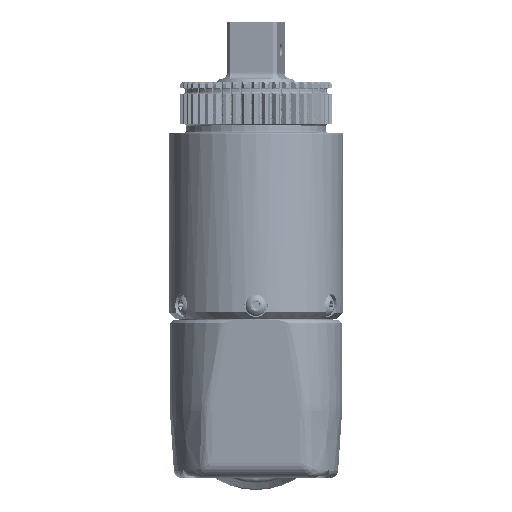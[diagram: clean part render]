
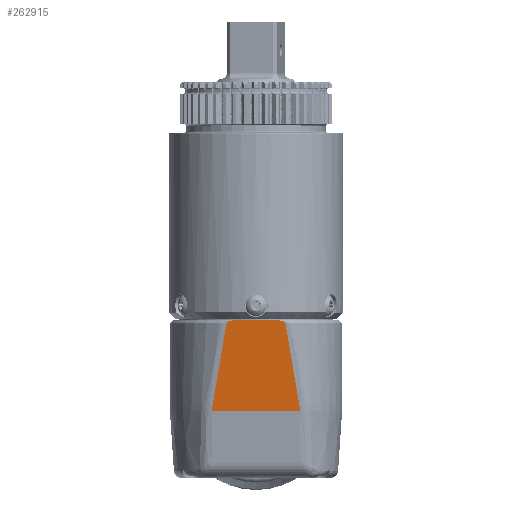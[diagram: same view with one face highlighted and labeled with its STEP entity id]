
A CAD part, top view. The second image highlights one B-rep face of the part: STEP entity #262915.
In plain terms, the highlighted planar face has unit normal (0, -0.104, 0.995).
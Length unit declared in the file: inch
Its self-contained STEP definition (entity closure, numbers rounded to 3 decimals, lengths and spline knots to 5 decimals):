
#666 = CARTESIAN_POINT ( 'NONE',  ( 0.43362, 1.31695, 12.62112 ) ) ;
#1914 = VECTOR ( 'NONE', #81118, 39.37008 ) ;
#2023 = CARTESIAN_POINT ( 'NONE',  ( 1.285, 0., 12.4827 ) ) ;
#3022 =( BOUNDED_CURVE ( )  B_SPLINE_CURVE ( 3, ( #5355, #35018, #96815, #150960 ),
 .UNSPECIFIED., .F., .F. ) 
 B_SPLINE_CURVE_WITH_KNOTS ( ( 4, 4 ),
 ( 2.46763, 2.7093 ),
 .UNSPECIFIED. ) 
 CURVE ( )  GEOMETRIC_REPRESENTATION_ITEM ( )  RATIONAL_B_SPLINE_CURVE ( ( 1., 0.995, 0.995, 1. ) ) 
 REPRESENTATION_ITEM ( '' )  );
#5355 = CARTESIAN_POINT ( 'NONE',  ( 0.64593, 0.06978, 12.49004 ) ) ;
#10599 = ORIENTED_EDGE ( 'NONE', *, *, #91345, .T. ) ;
#13080 = FACE_OUTER_BOUND ( 'NONE', #292617, .T. ) ;
#31711 = CARTESIAN_POINT ( 'NONE',  ( 0.39764, 1.32817, 12.6223 ) ) ;
#35018 = CARTESIAN_POINT ( 'NONE',  ( 0.58062, 0.56605, 12.5422 ) ) ;
#37361 = VERTEX_POINT ( 'NONE', #218697 ) ;
#38968 = VERTEX_POINT ( 'NONE', #332706 ) ;
#48649 = ORIENTED_EDGE ( 'NONE', *, *, #330607, .T. ) ;
#51530 = CARTESIAN_POINT ( 'NONE',  ( 0., 1.347, 12.62428 ) ) ;
#52368 = EDGE_CURVE ( 'NONE', #370291, #313377, #374296, .T. ) ;
#56221 = CARTESIAN_POINT ( 'NONE',  ( 0.43362, 1.31695, 12.62112 ) ) ;
#61108 = CARTESIAN_POINT ( 'NONE',  ( -0.58062, 0.56605, 12.5422 ) ) ;
#63598 = ORIENTED_EDGE ( 'NONE', *, *, #136983, .T. ) ;
#69008 = VERTEX_POINT ( 'NONE', #666 ) ;
#78161 = CARTESIAN_POINT ( 'NONE',  ( -0.64898, 0.04662, 12.4876 ) ) ;
#81118 = DIRECTION ( 'NONE',  ( -1., 0., 0. ) ) ;
#82113 = VERTEX_POINT ( 'NONE', #119035 ) ;
#83760 = DIRECTION ( 'NONE',  ( 0., 0.105, -0.995 ) ) ;
#91345 = EDGE_CURVE ( 'NONE', #82113, #370291, #223020, .T. ) ;
#96815 = CARTESIAN_POINT ( 'NONE',  ( 0.50951, 0.9838, 12.5861 ) ) ;
#97015 = CARTESIAN_POINT ( 'NONE',  ( -0.43362, 1.31695, 12.62112 ) ) ;
#97764 = EDGE_CURVE ( 'NONE', #37361, #38968, #367255, .T. ) ;
#105845 = CARTESIAN_POINT ( 'NONE',  ( 0.65158, 0., 12.4827 ) ) ;
#109626 = CARTESIAN_POINT ( 'NONE',  ( 0.64898, 0.04662, 12.4876 ) ) ;
#110558 = CARTESIAN_POINT ( 'NONE',  ( -0.39764, 1.32817, 12.6223 ) ) ;
#119035 = CARTESIAN_POINT ( 'NONE',  ( -0.32461, 1.347, 12.62428 ) ) ;
#125741 = ORIENTED_EDGE ( 'NONE', *, *, #236117, .T. ) ;
#136983 = EDGE_CURVE ( 'NONE', #166932, #69008, #3022, .T. ) ;
#140266 = LINE ( 'NONE', #51530, #1914 ) ;
#143014 = DIRECTION ( 'NONE',  ( 0., -0.995, -0.105 ) ) ;
#146904 = CARTESIAN_POINT ( 'NONE',  ( 0.64593, 0.06978, 12.49004 ) ) ;
#150960 = CARTESIAN_POINT ( 'NONE',  ( 0.43362, 1.31695, 12.62112 ) ) ;
#166932 = VERTEX_POINT ( 'NONE', #146904 ) ;
#168506 = CARTESIAN_POINT ( 'NONE',  ( -0.32461, 1.347, 12.62428 ) ) ;
#169540 = CARTESIAN_POINT ( 'NONE',  ( -0.65158, 0., 12.4827 ) ) ;
#194684 = CARTESIAN_POINT ( 'NONE',  ( 0.65086, 0.02335, 12.48516 ) ) ;
#198134 = CARTESIAN_POINT ( 'NONE',  ( -0.43362, 1.31695, 12.62112 ) ) ;
#201060 = CARTESIAN_POINT ( 'NONE',  ( -0.64593, 0.06978, 12.49004 ) ) ;
#204278 = CARTESIAN_POINT ( 'NONE',  ( 0.32461, 1.347, 12.62428 ) ) ;
#205984 = PLANE ( 'NONE',  #335634 ) ;
#218697 = CARTESIAN_POINT ( 'NONE',  ( 0.65158, 0., 12.4827 ) ) ;
#223020 = B_SPLINE_CURVE_WITH_KNOTS ( 'NONE', 3,
 ( #168506, #370645, #110558, #198134 ),
 .UNSPECIFIED., .F., .F.,
 ( 4, 4 ),
 ( 0., 0.00287 ),
 .UNSPECIFIED. ) ;
#226311 = CARTESIAN_POINT ( 'NONE',  ( -0.64593, 0.06978, 12.49004 ) ) ;
#236117 = EDGE_CURVE ( 'NONE', #345903, #82113, #140266, .T. ) ;
#252223 = EDGE_CURVE ( 'NONE', #37361, #166932, #354132, .T. ) ;
#262915 = ADVANCED_FACE ( 'NONE', ( #13080 ), #205984, .F. ) ;
#267155 = CARTESIAN_POINT ( 'NONE',  ( -0.64593, 0.06978, 12.49004 ) ) ;
#279213 = B_SPLINE_CURVE_WITH_KNOTS ( 'NONE', 3,
 ( #56221, #31711, #354691, #204278 ),
 .UNSPECIFIED., .F., .F.,
 ( 4, 4 ),
 ( 0.00161, 0.00448 ),
 .UNSPECIFIED. ) ;
#284472 = VECTOR ( 'NONE', #299328, 39.37008 ) ;
#284855 = EDGE_CURVE ( 'NONE', #313377, #38968, #299440, .T. ) ;
#287938 = CARTESIAN_POINT ( 'NONE',  ( -0.65086, 0.02335, 12.48516 ) ) ;
#292617 = EDGE_LOOP ( 'NONE', ( #355071, #299751, #63598, #48649, #125741, #10599, #336373, #357326 ) ) ;
#292853 = CARTESIAN_POINT ( 'NONE',  ( -0.43362, 1.31695, 12.62112 ) ) ;
#299328 = DIRECTION ( 'NONE',  ( -1., 0., 0. ) ) ;
#299440 = B_SPLINE_CURVE_WITH_KNOTS ( 'NONE', 3,
 ( #226311, #78161, #287938, #169540 ),
 .UNSPECIFIED., .F., .F.,
 ( 4, 4 ),
 ( 0., 0.00179 ),
 .UNSPECIFIED. ) ;
#299751 = ORIENTED_EDGE ( 'NONE', *, *, #252223, .T. ) ;
#313377 = VERTEX_POINT ( 'NONE', #201060 ) ;
#316737 = CARTESIAN_POINT ( 'NONE',  ( 0.64593, 0.06978, 12.49004 ) ) ;
#322365 = CARTESIAN_POINT ( 'NONE',  ( -0.50951, 0.9838, 12.5861 ) ) ;
#324207 = CARTESIAN_POINT ( 'NONE',  ( 1.285, 1.347, 12.62428 ) ) ;
#330607 = EDGE_CURVE ( 'NONE', #69008, #345903, #279213, .T. ) ;
#332706 = CARTESIAN_POINT ( 'NONE',  ( -0.65158, 0., 12.4827 ) ) ;
#335634 = AXIS2_PLACEMENT_3D ( 'NONE', #324207, #83760, #143014 ) ;
#336373 = ORIENTED_EDGE ( 'NONE', *, *, #52368, .T. ) ;
#339842 = CARTESIAN_POINT ( 'NONE',  ( 0.32461, 1.347, 12.62428 ) ) ;
#345903 = VERTEX_POINT ( 'NONE', #339842 ) ;
#354132 = B_SPLINE_CURVE_WITH_KNOTS ( 'NONE', 3,
 ( #105845, #194684, #109626, #316737 ),
 .UNSPECIFIED., .F., .F.,
 ( 4, 4 ),
 ( 0., 0.00179 ),
 .UNSPECIFIED. ) ;
#354691 = CARTESIAN_POINT ( 'NONE',  ( 0.36132, 1.33824, 12.62336 ) ) ;
#355071 = ORIENTED_EDGE ( 'NONE', *, *, #97764, .F. ) ;
#357326 = ORIENTED_EDGE ( 'NONE', *, *, #284855, .T. ) ;
#367255 = LINE ( 'NONE', #2023, #284472 ) ;
#370291 = VERTEX_POINT ( 'NONE', #97015 ) ;
#370645 = CARTESIAN_POINT ( 'NONE',  ( -0.36132, 1.33824, 12.62336 ) ) ;
#374296 =( BOUNDED_CURVE ( )  B_SPLINE_CURVE ( 3, ( #292853, #322365, #61108, #267155 ),
 .UNSPECIFIED., .F., .T. ) 
 B_SPLINE_CURVE_WITH_KNOTS ( ( 4, 4 ),
 ( 3.57389, 3.81555 ),
 .UNSPECIFIED. ) 
 CURVE ( )  GEOMETRIC_REPRESENTATION_ITEM ( )  RATIONAL_B_SPLINE_CURVE ( ( 1., 0.995, 0.995, 1. ) ) 
 REPRESENTATION_ITEM ( '' )  );
